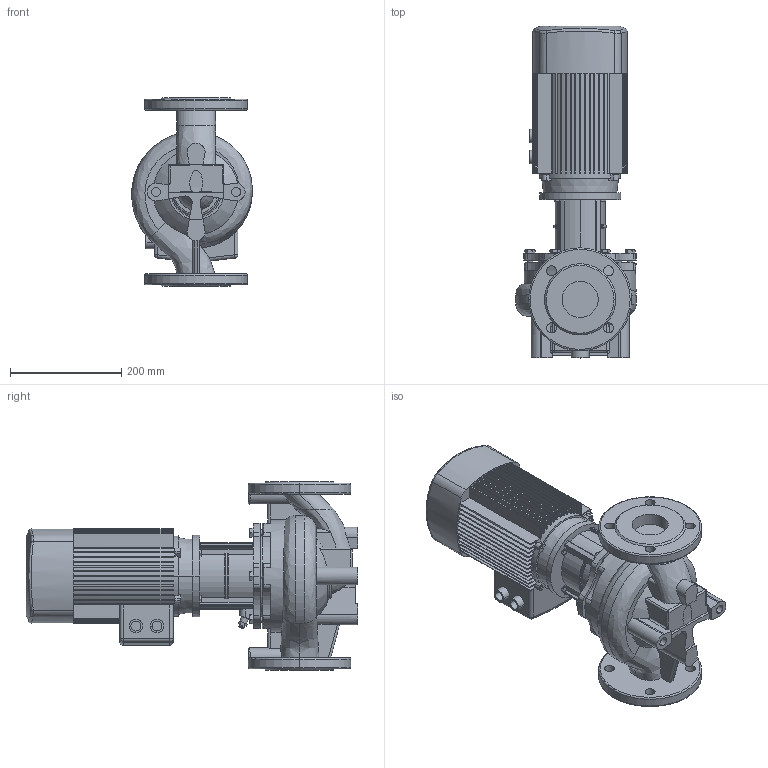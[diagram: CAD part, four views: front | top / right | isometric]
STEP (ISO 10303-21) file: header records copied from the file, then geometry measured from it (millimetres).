
FILE_DESCRIPTION(/* description */ (''),/* implementation_level */ '2;1');
FILE_NAME(/* name */ 'TD65-15-2安装尺寸图.stp',/* time_stamp */ '2026-09-07T15:38:39+08:00',/* author */ (''),/* organization */ (''),/* preprocessor_version */ 'ST-DEVELOPER v16.7',/* originating_system */ 'SIEMENS PLM Software NX 1847',/* authorisation */ '');
FILE_SCHEMA (('AP203_CONFIGURATION_CONTROLLED_3D_DESIGN_OF_MECHANICAL_PARTS_AND_ASSEMBLIES_MIM_LF { 1 0 10303 403 2 1 2}'));
Length unit declared in the file: millimetre
Products named in the file (1): Admi55F8EAC4z22s
Bounding box: 216.94 x 597 x 340 mm (x, y, z)
Volume: 13877940.2 mm3; surface area: 927551 mm2
Topology: 1 solids, 7 shells, 904 faces, 2378 edges, 1512 vertices
Faces by surface type: plane 441, cylinder 274, cone 75, torus 63, bspline 37, sphere 14
Full cylindrical faces by diameter (mm): 5.795 x4, 8 x1, 8.88 x4, 9.732 x6, 10 x1, 12.9 x1, 14.63 x6, 150 x1
Entity records: 33079 total; most frequent: CARTESIAN_POINT 10932, DIRECTION 4633, ORIENTED_EDGE 4626, EDGE_CURVE 2313, AXIS2_PLACEMENT_3D 1787, VERTEX_POINT 1495, LINE 1059, VECTOR 1059
